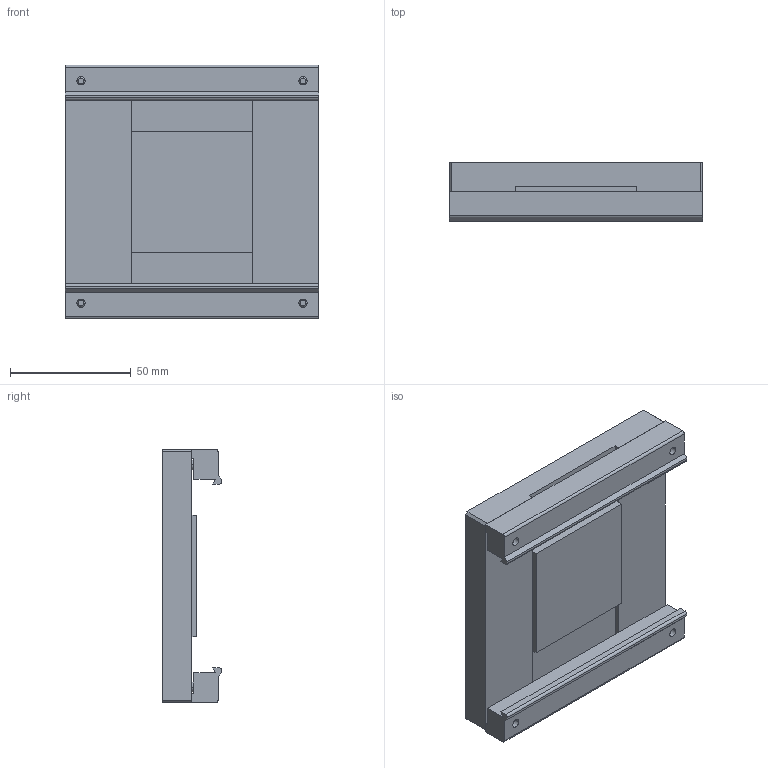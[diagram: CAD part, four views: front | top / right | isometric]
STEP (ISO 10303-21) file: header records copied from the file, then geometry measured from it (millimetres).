
FILE_DESCRIPTION (( 'STEP AP203' ), '1' );
FILE_NAME ('Montageplatte dL 80 MDV 80.STEP', '2004-01-12T10:20:34', ( '' ), ( '' ), 'SwSTEP 2.0', 'SolidWorks 2003064', '' );
FILE_SCHEMA (( 'CONFIG_CONTROL_DESIGN' ));
Length unit declared in the file: millimetre
Products named in the file (5): Montageplatte dL 80  MDV 80; Montageplatte_dL_80___MDV_80-+-D034371_ _PDB_1040420; Bestimmplatte_dL_80-+-D019082_ _PDB_050648; Klemmleiste-+-D007748_ _PDB_50632; SC-912_M 4 x 16
Assembly tree (8 placements, depth 2):
  Montageplatte dL 80  MDV 80
    SC-912_M 4 x 16  x4
    Montageplatte_dL_80___MDV_80-+-D034371_ _PDB_1040420
    Bestimmplatte_dL_80-+-D019082_ _PDB_050648
    Klemmleiste-+-D007748_ _PDB_50632  x2
Bounding box: 105 x 24.5 x 105 mm (x, y, z)
Volume: 157679.2 mm3; surface area: 48385.8 mm2
Topology: 8 solids, 8 shells, 200 faces, 456 edges, 288 vertices
Faces by surface type: plane 116, cylinder 60, cone 16, torus 8
Entity records: 3697 total; most frequent: DIRECTION 568, CARTESIAN_POINT 521, ORIENTED_EDGE 492, EDGE_CURVE 246, AXIS2_PLACEMENT_3D 207, VERTEX_POINT 160, LINE 154, VECTOR 154
